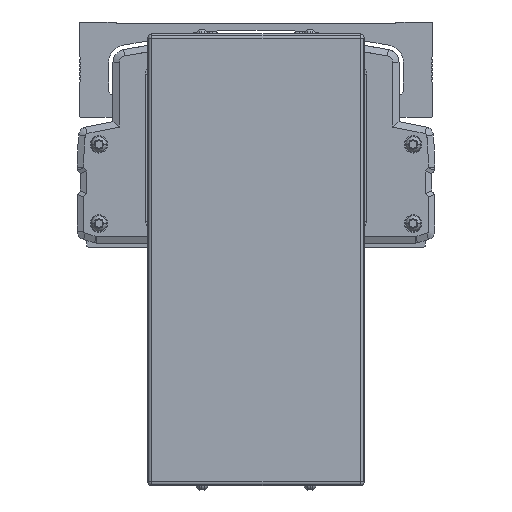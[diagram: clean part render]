
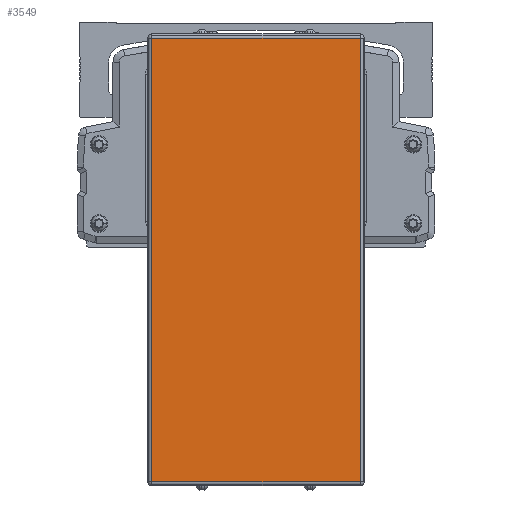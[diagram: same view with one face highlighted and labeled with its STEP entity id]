
A CAD part, front view. The second image highlights one B-rep face of the part: STEP entity #3549.
In plain terms, the highlighted planar face has unit normal (0, -1, 0).
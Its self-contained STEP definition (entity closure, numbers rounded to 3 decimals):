
#3549=ADVANCED_FACE('',(#8848),#8849,.T.);
#8848=FACE_OUTER_BOUND('',#16432,.T.);
#8849=PLANE('',#16433);
#16432=EDGE_LOOP('',(#28378,#28379,#28380,#28381));
#16433=AXIS2_PLACEMENT_3D('',#28382,#28383,#28384);
#28378=ORIENTED_EDGE('',*,*,#45546,.F.);
#28379=ORIENTED_EDGE('',*,*,#47977,.F.);
#28380=ORIENTED_EDGE('',*,*,#47978,.F.);
#28381=ORIENTED_EDGE('',*,*,#47979,.F.);
#28382=CARTESIAN_POINT('',(-600.,-372.778,-57.8));
#28383=DIRECTION('',(0.,-1.0,0.));
#28384=DIRECTION('',(0.,0.,-1.0));
#45546=EDGE_CURVE('',#54042,#54044,#54045,.T.);
#47977=EDGE_CURVE('',#58231,#54042,#58232,.T.);
#47978=EDGE_CURVE('',#58233,#58231,#58234,.T.);
#47979=EDGE_CURVE('',#54044,#58233,#58235,.T.);
#54042=VERTEX_POINT('',#66387);
#54044=VERTEX_POINT('',#66389);
#54045=LINE('',#66390,#66391);
#58231=VERTEX_POINT('',#72438);
#58232=LINE('',#72439,#72440);
#58233=VERTEX_POINT('',#72441);
#58234=LINE('',#72442,#72443);
#58235=LINE('',#72444,#72445);
#66387=CARTESIAN_POINT('',(-648.,-372.778,44.5));
#66389=CARTESIAN_POINT('',(-552.,-372.778,44.5));
#66390=CARTESIAN_POINT('',(-600.,-372.778,44.5));
#66391=VECTOR('',#84920,10.0);
#72438=CARTESIAN_POINT('',(-648.,-372.778,-160.1));
#72439=CARTESIAN_POINT('',(-648.,-372.778,-57.8));
#72440=VECTOR('',#87987,10.0);
#72441=CARTESIAN_POINT('',(-552.,-372.778,-160.1));
#72442=CARTESIAN_POINT('',(-600.,-372.778,-160.1));
#72443=VECTOR('',#87988,10.0);
#72444=CARTESIAN_POINT('',(-552.,-372.778,-57.8));
#72445=VECTOR('',#87989,10.0);
#84920=DIRECTION('',(1.0,0.,0.));
#87987=DIRECTION('',(0.,0.,1.0));
#87988=DIRECTION('',(-1.0,0.,0.));
#87989=DIRECTION('',(0.,0.,-1.0));
